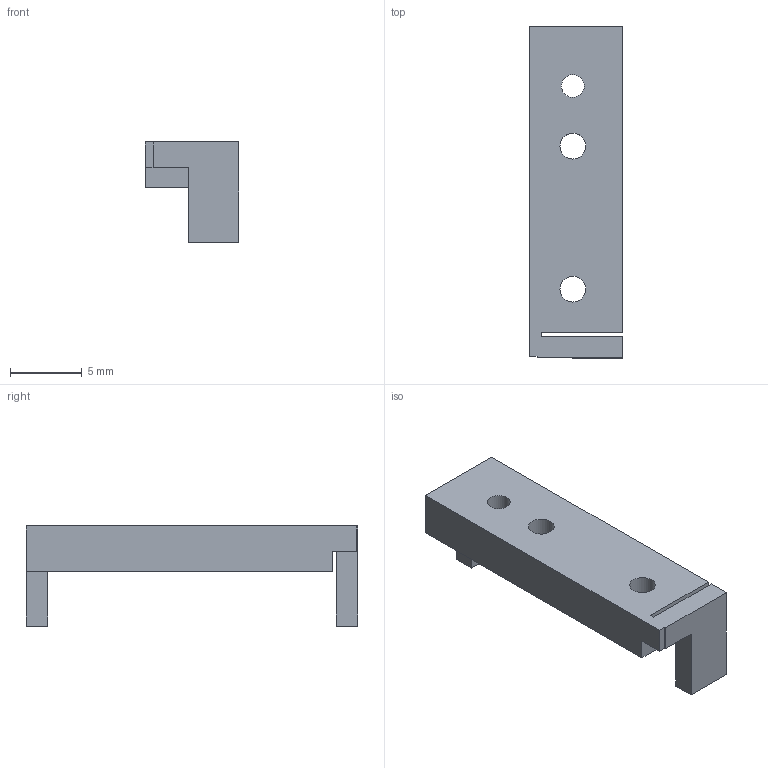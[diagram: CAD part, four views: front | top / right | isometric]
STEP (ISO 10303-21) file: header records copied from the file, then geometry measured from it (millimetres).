
FILE_DESCRIPTION(('Open CASCADE Model'),'2;1');
FILE_NAME('Open CASCADE Shape Model','2026-09-06T11:38:53',('Author'),( 'Open CASCADE'),'Open CASCADE STEP processor 7.7','Open CASCADE 7.7' ,'Unknown');
FILE_SCHEMA(('AUTOMOTIVE_DESIGN { 1 0 10303 214 1 1 1 1 }'));
Length unit declared in the file: millimetre
Products named in the file (1): Open CASCADE STEP translator 7.7 12
Bounding box: 6.55 x 23.2 x 7 mm (x, y, z)
Volume: 469.7 mm3; surface area: 650.2 mm2
Topology: 1 solids, 1 shells, 25 faces, 63 edges, 42 vertices
Faces by surface type: plane 20, cylinder 5
Full cylindrical faces by diameter (mm): 1.6 x1, 1.8 x2, 3.6 x2
Entity records: 1600 total; most frequent: CARTESIAN_POINT 317, DIRECTION 231, LINE 157, VECTOR 157, ORIENTED_EDGE 126, PCURVE 126, DEFINITIONAL_REPRESENTATION 126, EDGE_CURVE 63
